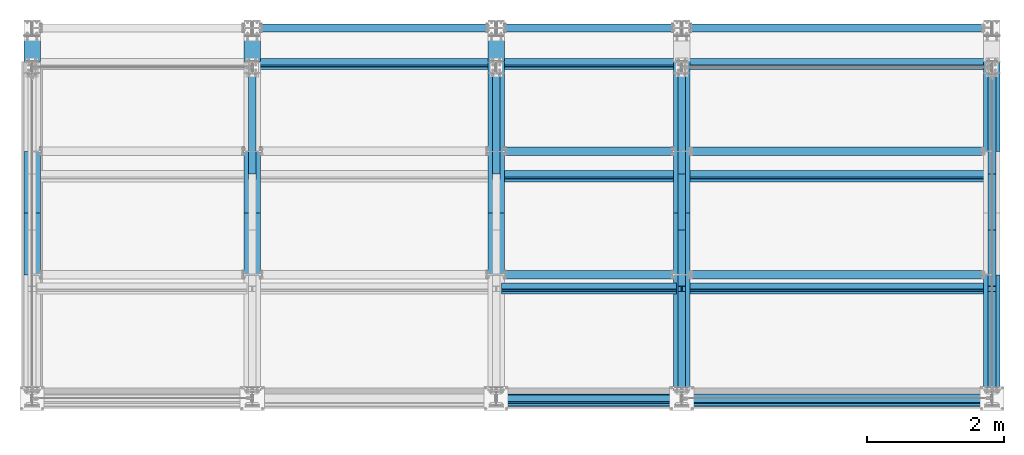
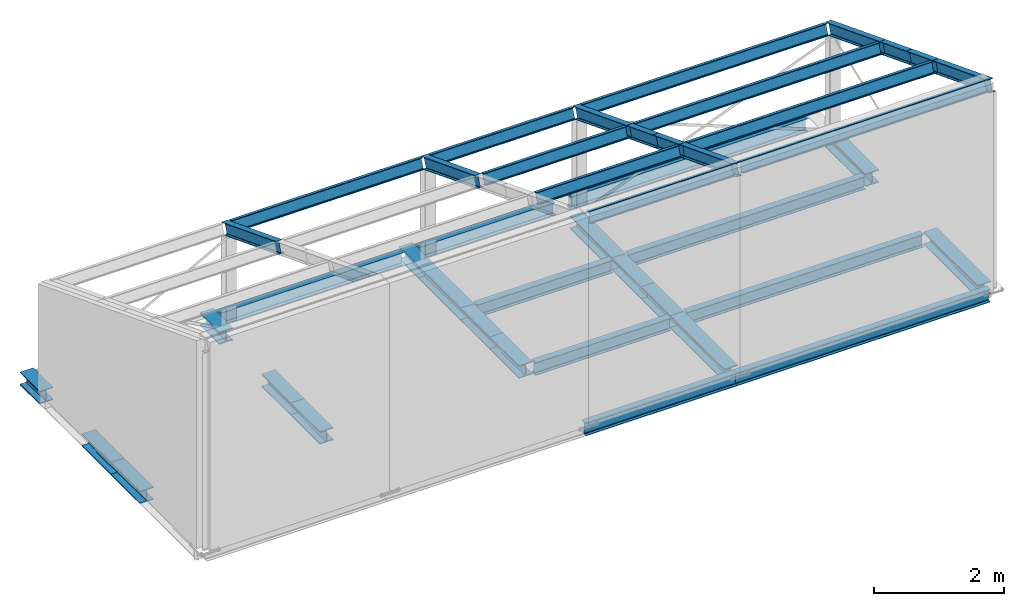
# One storey, part 2 of 66: 44 beams.
"""IFC4 building model written with IfcOpenShell, lengths in metres."""

from ifc_helpers import new_model, si_unit, frame, frame_2d, origin_with_axes, origin_2d_with_axis, place, context, project, spatial, i_section, extrude, clip, halfspace, material, material_profile, profile_set, profile_usage, type_object, element, save


model = new_model("IFC4")

# Units and contexts
model_context = context("Model", 3, precision=1e-05, world=origin_with_axes())
ifc_project = project(units=[si_unit("LENGTHUNIT", "METRE"), si_unit("AREAUNIT", "SQUARE_METRE"), si_unit("VOLUMEUNIT", "CUBIC_METRE"), si_unit("MASSUNIT", "GRAM", prefix="KILO"), si_unit("TIMEUNIT", "SECOND"), si_unit("PLANEANGLEUNIT", "RADIAN"), si_unit("SOLIDANGLEUNIT", "STERADIAN"), si_unit("THERMODYNAMICTEMPERATUREUNIT", "DEGREE_CELSIUS")], contexts=[model_context])

# Site, building, storey
placement_1 = place(None, origin_with_axes())
site = spatial("IfcSite", under=ifc_project, at=placement_1, Name="Italia", CompositionType="ELEMENT")
building = spatial("IfcBuilding", under=site, at=placement_1, Name="Uffici", CompositionType="ELEMENT")
storey_placement = place(None, frame((0.0, 0.0, 3.299999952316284), z_axis=(0.0, 0.0, 1.0), x_axis=(1.0, 0.0, 0.0)))
storey = spatial("IfcBuildingStorey", under=building, at=storey_placement, Name="Storey 1", CompositionType="ELEMENT", Elevation=3.299999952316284)

# Beams
ifc_material = material(Name="Acciaio", Category="Acciaio")
ifc_material_profile = material_profile(ifc_material, i_section(OverallWidth=0.24, OverallDepth=0.23, WebThickness=0.0075, FlangeThickness=0.012, FilletRadius=0.021, at=frame_2d((0.0, 0.0), x_axis=(0.0, -0.999999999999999))), Name="1 HEA240")
ifc_profile_set = profile_set([ifc_material_profile])
ifc_profile_usage_1 = profile_usage(ifc_profile_set, cardinal=2)
beam_type_1 = type_object("IfcBeamType", Name="2 HEB240", PredefinedType="BEAM", material=ifc_profile_usage_1)
placement_2 = place(placement_1, origin_with_axes())
beam_1_placement = place(placement_2, origin_with_axes())
element("IfcBeam", 1, at=beam_1_placement, inside=storey, type_object=beam_type_1, Name="108", context=model_context, shape_type="SweptSolid", body=[
    extrude(i_section(OverallWidth=0.24, OverallDepth=0.24, WebThickness=0.01, FlangeThickness=0.017, FilletRadius=0.021, at=origin_2d_with_axis()), frame((0.0, 1.79667, 3.18), z_axis=(0.0, 1.0, 0.0), x_axis=(-1.0, 0.0, 0.0)), (0.0, 0.0, 1.0), 0.898333),
])
ifc_profile_usage_2 = profile_usage(ifc_profile_set, cardinal=2)
beam_type_2 = type_object("IfcBeamType", Name="2 HEB240", PredefinedType="BEAM", material=ifc_profile_usage_2)
beam_2_placement = place(placement_2, origin_with_axes())
element("IfcBeam", 2, at=beam_2_placement, inside=storey, type_object=beam_type_2, Name="108", context=model_context, shape_type="SweptSolid", body=[
    extrude(i_section(OverallWidth=0.24, OverallDepth=0.24, WebThickness=0.01, FlangeThickness=0.017, FilletRadius=0.021, at=origin_2d_with_axis()), frame((0.0, 2.695, 3.18), z_axis=(0.0, 1.0, 0.0), x_axis=(-1.0, 0.0, 0.0)), (0.0, 0.0, 1.0), 0.898333),
])
ifc_profile_usage_3 = profile_usage(ifc_profile_set, cardinal=2)
beam_type_3 = type_object("IfcBeamType", Name="6 IPE200", PredefinedType="BEAM", material=ifc_profile_usage_3)
beam_3_placement = place(placement_2, frame((7.197502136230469, 4.863853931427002, 5.246760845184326), z_axis=(0.0, 0.0, 1.0), x_axis=(1.0, 0.0, 0.0)))
element("IfcBeam", 3, at=beam_3_placement, inside=storey, type_object=beam_type_3, Name="230", context=model_context, shape_type="Clipping", body=[
    clip(clip(extrude(i_section(OverallWidth=0.1, OverallDepth=0.2, WebThickness=0.0056, FlangeThickness=0.0085, FilletRadius=0.012, at=frame_2d((0.0, 0.0), x_axis=(0.932386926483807, -0.361461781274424))), frame((0.0, 0.0, 0.0), z_axis=(1.0, 0.0, 0.0), x_axis=(0.0, 1.0, 0.0)), (0.0, 0.0, 1.0), 9.03), halfspace(frame((2.3325, 0.0, 4.76837e-07), z_axis=(-1.0, 0.0, 0.0), x_axis=(0.0, -1.0, 0.0)), False)), halfspace(frame((6.6975, 0.0, 4.76837e-07), z_axis=(-1.0, 0.0, 0.0), x_axis=(0.0, -1.0, 0.0)), True)),
])
ifc_profile_usage_4 = profile_usage(ifc_profile_set, cardinal=2)
beam_type_4 = type_object("IfcBeamType", Name="6 IPE200", PredefinedType="BEAM", material=ifc_profile_usage_4)
beam_4_placement = place(placement_2, frame((5.404999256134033, 4.863853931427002, 5.246760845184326), z_axis=(0.0, 0.0, 1.0), x_axis=(1.0, 0.0, 0.0)))
element("IfcBeam", 4, at=beam_4_placement, inside=storey, type_object=beam_type_4, Name="230", context=model_context, shape_type="Clipping", body=[
    clip(clip(extrude(i_section(OverallWidth=0.1, OverallDepth=0.2, WebThickness=0.0056, FlangeThickness=0.0085, FilletRadius=0.012, at=frame_2d((0.0, 0.0), x_axis=(0.932386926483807, -0.361461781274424))), frame((0.0, 0.0, 0.0), z_axis=(1.0, 0.0, 0.0), x_axis=(0.0, 1.0, 0.0)), (0.0, 0.0, 1.0), 5.4), halfspace(frame((1.425, 0.0, 4.76837e-07), z_axis=(-1.0, 0.0, 0.0), x_axis=(0.0, -1.0, 0.0)), False)), halfspace(frame((3.975, 0.0, 4.76837e-07), z_axis=(-1.0, 0.0, 0.0), x_axis=(0.0, -1.0, 0.0)), True)),
])
ifc_profile_usage_5 = profile_usage(ifc_profile_set, cardinal=2)
beam_type_5 = type_object("IfcBeamType", Name="6 IPE200", PredefinedType="BEAM", material=ifc_profile_usage_5)
beam_5_placement = place(placement_2, frame((1.429999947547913, 4.863853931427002, 5.246760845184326), z_axis=(0.0, 0.0, 1.0), x_axis=(1.0, 0.0, 0.0)))
element("IfcBeam", 5, at=beam_5_placement, inside=storey, type_object=beam_type_5, Name="230", context=model_context, shape_type="Clipping", body=[
    clip(clip(extrude(i_section(OverallWidth=0.1, OverallDepth=0.2, WebThickness=0.0056, FlangeThickness=0.0085, FilletRadius=0.012, at=frame_2d((0.0, 0.0), x_axis=(0.932386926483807, -0.361461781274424))), frame((0.0, 0.0, 0.0), z_axis=(1.0, 0.0, 0.0), x_axis=(0.0, 1.0, 0.0)), (0.0, 0.0, 1.0), 7.1), halfspace(frame((1.85, 0.0, 4.76837e-07), z_axis=(-1.0, 0.0, 0.0), x_axis=(0.0, -1.0, 0.0)), False)), halfspace(frame((5.25, 0.0, 4.76837e-07), z_axis=(-1.0, 0.0, 0.0), x_axis=(0.0, -1.0, 0.0)), True)),
])
ifc_profile_usage_6 = profile_usage(ifc_profile_set, cardinal=2)
beam_type_6 = type_object("IfcBeamType", Name="6 IPE200", PredefinedType="BEAM", material=ifc_profile_usage_6)
beam_6_placement = place(placement_2, frame((7.197502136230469, 3.230520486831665, 5.880094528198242), z_axis=(0.0, 0.0, 1.0), x_axis=(1.0, 0.0, 0.0)))
element("IfcBeam", 6, at=beam_6_placement, inside=storey, type_object=beam_type_6, Name="204", context=model_context, shape_type="Clipping", body=[
    clip(clip(extrude(i_section(OverallWidth=0.1, OverallDepth=0.2, WebThickness=0.0056, FlangeThickness=0.0085, FilletRadius=0.012, at=frame_2d((0.0, 0.0), x_axis=(0.932386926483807, -0.361461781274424))), frame((0.0, 0.0, 0.0), z_axis=(1.0, 0.0, 0.0), x_axis=(0.0, 1.0, 0.0)), (0.0, 0.0, 1.0), 9.03), halfspace(frame((2.3325, 0.0, 0.0), z_axis=(-1.0, 0.0, 0.0), x_axis=(0.0, -1.0, 0.0)), False)), halfspace(frame((6.6975, 0.0, 0.0), z_axis=(-1.0, 0.0, 0.0), x_axis=(0.0, -1.0, 0.0)), True)),
])
ifc_profile_usage_7 = profile_usage(ifc_profile_set, cardinal=2)
beam_type_7 = type_object("IfcBeamType", Name="6 IPE200", PredefinedType="BEAM", material=ifc_profile_usage_7)
beam_7_placement = place(placement_2, frame((5.404999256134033, 3.230520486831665, 5.880094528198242), z_axis=(0.0, 0.0, 1.0), x_axis=(1.0, 0.0, 0.0)))
element("IfcBeam", 7, at=beam_7_placement, inside=storey, type_object=beam_type_7, Name="204", context=model_context, shape_type="Clipping", body=[
    clip(clip(extrude(i_section(OverallWidth=0.1, OverallDepth=0.2, WebThickness=0.0056, FlangeThickness=0.0085, FilletRadius=0.012, at=frame_2d((0.0, 0.0), x_axis=(0.932386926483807, -0.361461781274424))), frame((0.0, 0.0, 0.0), z_axis=(1.0, 0.0, 0.0), x_axis=(0.0, 1.0, 0.0)), (0.0, 0.0, 1.0), 5.4), halfspace(frame((1.425, 0.0, 0.0), z_axis=(-1.0, 0.0, 0.0), x_axis=(0.0, -1.0, 0.0)), False)), halfspace(frame((3.975, 0.0, 0.0), z_axis=(-1.0, 0.0, 0.0), x_axis=(0.0, -1.0, 0.0)), True)),
])
ifc_profile_usage_8 = profile_usage(ifc_profile_set, cardinal=2)
beam_type_8 = type_object("IfcBeamType", Name="6 IPE200", PredefinedType="BEAM", material=ifc_profile_usage_8)
beam_8_placement = place(placement_2, frame((7.197502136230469, 1.597187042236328, 6.513427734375), z_axis=(0.0, 0.0, 1.0), x_axis=(1.0, 0.0, 0.0)))
element("IfcBeam", 8, at=beam_8_placement, inside=storey, type_object=beam_type_8, Name="202", context=model_context, shape_type="Clipping", body=[
    clip(clip(extrude(i_section(OverallWidth=0.1, OverallDepth=0.2, WebThickness=0.0056, FlangeThickness=0.0085, FilletRadius=0.012, at=frame_2d((0.0, 0.0), x_axis=(0.932386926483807, -0.361461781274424))), frame((0.0, 0.0, 0.0), z_axis=(1.0, 0.0, 0.0), x_axis=(0.0, 1.0, 0.0)), (0.0, 0.0, 1.0), 9.03), halfspace(frame((2.3325, 0.0, 0.0), z_axis=(-1.0, 0.0, 0.0), x_axis=(0.0, -1.0, 0.0)), False)), halfspace(frame((6.6975, 0.0, 0.0), z_axis=(-1.0, 0.0, 0.0), x_axis=(0.0, -1.0, 0.0)), True)),
])
ifc_profile_usage_9 = profile_usage(ifc_profile_set, cardinal=2)
beam_type_9 = type_object("IfcBeamType", Name="6 IPE200", PredefinedType="BEAM", material=ifc_profile_usage_9)
beam_9_placement = place(placement_2, frame((5.404999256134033, 1.597187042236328, 6.513427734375), z_axis=(0.0, 0.0, 1.0), x_axis=(1.0, 0.0, 0.0)))
element("IfcBeam", 9, at=beam_9_placement, inside=storey, type_object=beam_type_9, Name="202", context=model_context, shape_type="Clipping", body=[
    clip(clip(extrude(i_section(OverallWidth=0.1, OverallDepth=0.2, WebThickness=0.0056, FlangeThickness=0.0085, FilletRadius=0.012, at=frame_2d((0.0, 0.0), x_axis=(0.932386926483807, -0.361461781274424))), frame((0.0, 0.0, 0.0), z_axis=(1.0, 0.0, 0.0), x_axis=(0.0, 1.0, 0.0)), (0.0, 0.0, 1.0), 5.4), halfspace(frame((1.425, 0.0, 0.0), z_axis=(-1.0, 0.0, 0.0), x_axis=(0.0, -1.0, 0.0)), False)), halfspace(frame((3.975, 0.0, 0.0), z_axis=(-1.0, 0.0, 0.0), x_axis=(0.0, -1.0, 0.0)), True)),
])
ifc_profile_usage_10 = profile_usage(ifc_profile_set, cardinal=2)
beam_type_10 = type_object("IfcBeamType", Name="6 IPE200", PredefinedType="BEAM", material=ifc_profile_usage_10)
beam_10_placement = place(placement_2, frame((7.197502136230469, -0.03614616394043, 7.1467604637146), z_axis=(0.0, 0.0, 1.0), x_axis=(1.0, 0.0, 0.0)))
element("IfcBeam", 10, at=beam_10_placement, inside=storey, type_object=beam_type_10, Name="201", context=model_context, shape_type="Clipping", body=[
    clip(clip(extrude(i_section(OverallWidth=0.1, OverallDepth=0.2, WebThickness=0.0056, FlangeThickness=0.0085, FilletRadius=0.012, at=frame_2d((0.0, 0.0), x_axis=(0.932386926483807, -0.361461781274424))), frame((0.0, 0.0, 0.0), z_axis=(1.0, 0.0, 0.0), x_axis=(0.0, 1.0, 0.0)), (0.0, 0.0, 1.0), 9.03), halfspace(frame((2.3325, 0.0, 4.76837e-07), z_axis=(-1.0, 0.0, 0.0), x_axis=(0.0, -1.0, 0.0)), False)), halfspace(frame((6.6975, 0.0, 4.76837e-07), z_axis=(-1.0, 0.0, 0.0), x_axis=(0.0, -1.0, 0.0)), True)),
])
ifc_profile_usage_11 = profile_usage(ifc_profile_set, cardinal=2)
beam_type_11 = type_object("IfcBeamType", Name="6 IPE200", PredefinedType="BEAM", material=ifc_profile_usage_11)
beam_11_placement = place(placement_2, frame((5.404999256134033, -0.03614616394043, 7.1467604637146), z_axis=(0.0, 0.0, 1.0), x_axis=(1.0, 0.0, 0.0)))
element("IfcBeam", 11, at=beam_11_placement, inside=storey, type_object=beam_type_11, Name="201", context=model_context, shape_type="Clipping", body=[
    clip(clip(extrude(i_section(OverallWidth=0.1, OverallDepth=0.2, WebThickness=0.0056, FlangeThickness=0.0085, FilletRadius=0.012, at=frame_2d((0.0, 0.0), x_axis=(0.932386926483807, -0.361461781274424))), frame((0.0, 0.0, 0.0), z_axis=(1.0, 0.0, 0.0), x_axis=(0.0, 1.0, 0.0)), (0.0, 0.0, 1.0), 5.4), halfspace(frame((1.425, 0.0, 4.76837e-07), z_axis=(-1.0, 0.0, 0.0), x_axis=(0.0, -1.0, 0.0)), False)), halfspace(frame((3.975, 0.0, 4.76837e-07), z_axis=(-1.0, 0.0, 0.0), x_axis=(0.0, -1.0, 0.0)), True)),
])
ifc_profile_usage_12 = profile_usage(ifc_profile_set, cardinal=2)
beam_type_12 = type_object("IfcBeamType", Name="5 IPE220", PredefinedType="BEAM", material=ifc_profile_usage_12)
beam_12_placement = place(placement_2, origin_with_axes())
element("IfcBeam", 12, at=beam_12_placement, inside=storey, type_object=beam_type_12, Name="212", context=model_context, shape_type="SweptSolid", body=[
    extrude(i_section(OverallWidth=0.11, OverallDepth=0.22, WebThickness=0.0059, FlangeThickness=0.0092, FilletRadius=0.012, at=origin_2d_with_axis()), frame((13.97, 3.2269, 5.87077), z_axis=(0.0, 0.932361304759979, -0.36152783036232), x_axis=(-1.0, 0.0, 0.0)), (0.0, 0.0, 1.0), 1.80184),
])
ifc_profile_usage_13 = profile_usage(ifc_profile_set, cardinal=2)
beam_type_13 = type_object("IfcBeamType", Name="5 IPE220", PredefinedType="BEAM", material=ifc_profile_usage_13)
beam_13_placement = place(placement_2, origin_with_axes())
element("IfcBeam", 13, at=beam_13_placement, inside=storey, type_object=beam_type_13, Name="212", context=model_context, shape_type="SweptSolid", body=[
    extrude(i_section(OverallWidth=0.11, OverallDepth=0.22, WebThickness=0.0059, FlangeThickness=0.0092, FilletRadius=0.012, at=origin_2d_with_axis()), frame((13.97, 1.59357, 6.50411), z_axis=(0.0, 0.932361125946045, -0.361528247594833), x_axis=(-1.0, 0.0, 0.0)), (0.0, 0.0, 1.0), 0.875912),
])
ifc_profile_usage_14 = profile_usage(ifc_profile_set, cardinal=2)
beam_type_14 = type_object("IfcBeamType", Name="5 IPE220", PredefinedType="BEAM", material=ifc_profile_usage_14)
beam_14_placement = place(placement_2, origin_with_axes())
element("IfcBeam", 14, at=beam_14_placement, inside=storey, type_object=beam_type_14, Name="211", context=model_context, shape_type="SweptSolid", body=[
    extrude(i_section(OverallWidth=0.11, OverallDepth=0.22, WebThickness=0.0059, FlangeThickness=0.0092, FilletRadius=0.012, at=origin_2d_with_axis()), frame((9.455, 3.2269, 5.87077), z_axis=(0.0, 0.932361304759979, -0.36152783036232), x_axis=(-1.0, 0.0, 0.0)), (0.0, 0.0, 1.0), 1.80184),
])
ifc_profile_usage_15 = profile_usage(ifc_profile_set, cardinal=2)
beam_type_15 = type_object("IfcBeamType", Name="2 HEB240", PredefinedType="BEAM", material=ifc_profile_usage_15)
beam_15_placement = place(placement_2, frame((9.455001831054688, -0.898333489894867, 3.180000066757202), z_axis=(0.0, 0.0, 1.0), x_axis=(1.0, 0.0, 0.0)))
element("IfcBeam", 15, at=beam_15_placement, inside=storey, type_object=beam_type_15, Name="111", context=model_context, shape_type="Clipping", body=[
    clip(extrude(i_section(OverallWidth=0.24, OverallDepth=0.24, WebThickness=0.01, FlangeThickness=0.017, FilletRadius=0.021, at=origin_2d_with_axis()), frame((0.0, 0.0, 0.0), z_axis=(0.0, 1.0, 0.0), x_axis=(-1.0, 0.0, 0.0)), (0.0, 0.0, 1.0), 2.695), halfspace(frame((9.53674e-07, 1.02833, 0.0), z_axis=(0.0, -1.0, 0.0), x_axis=(1.0, 0.0, 0.0)), False)),
])
ifc_profile_usage_16 = profile_usage(ifc_profile_set, cardinal=2)
beam_type_16 = type_object("IfcBeamType", Name="2 HEB240", PredefinedType="BEAM", material=ifc_profile_usage_16)
beam_16_placement = place(placement_2, origin_with_axes())
element("IfcBeam", 16, at=beam_16_placement, inside=storey, type_object=beam_type_16, Name="111", context=model_context, shape_type="SweptSolid", body=[
    extrude(i_section(OverallWidth=0.24, OverallDepth=0.24, WebThickness=0.01, FlangeThickness=0.017, FilletRadius=0.021, at=origin_2d_with_axis()), frame((9.455, 1.79667, 3.18), z_axis=(0.0, 1.0, 0.0), x_axis=(-1.0, 0.0, 0.0)), (0.0, 0.0, 1.0), 0.898333),
])
ifc_profile_usage_17 = profile_usage(ifc_profile_set, cardinal=2)
beam_type_17 = type_object("IfcBeamType", Name="2 HEB240", PredefinedType="BEAM", material=ifc_profile_usage_17)
beam_17_placement = place(placement_2, origin_with_axes())
element("IfcBeam", 17, at=beam_17_placement, inside=storey, type_object=beam_type_17, Name="111", context=model_context, shape_type="SweptSolid", body=[
    extrude(i_section(OverallWidth=0.24, OverallDepth=0.24, WebThickness=0.01, FlangeThickness=0.017, FilletRadius=0.021, at=origin_2d_with_axis()), frame((9.455, 3.59333, 3.18), z_axis=(0.0, 1.0, 0.0), x_axis=(-1.0, 0.0, 0.0)), (0.0, 0.0, 1.0), 1.30667),
])
ifc_profile_usage_18 = profile_usage(ifc_profile_set, cardinal=2)
beam_type_18 = type_object("IfcBeamType", Name="2 HEB240", PredefinedType="BEAM", material=ifc_profile_usage_18)
beam_18_placement = place(placement_2, origin_with_axes())
element("IfcBeam", 18, at=beam_18_placement, inside=storey, type_object=beam_type_18, Name="111", context=model_context, shape_type="SweptSolid", body=[
    extrude(i_section(OverallWidth=0.24, OverallDepth=0.24, WebThickness=0.01, FlangeThickness=0.017, FilletRadius=0.021, at=origin_2d_with_axis()), frame((9.455, 2.695, 3.18), z_axis=(0.0, 1.0, 0.0), x_axis=(-1.0, 0.0, 0.0)), (0.0, 0.0, 1.0), 0.898333),
])
ifc_profile_usage_19 = profile_usage(ifc_profile_set, cardinal=2)
beam_type_19 = type_object("IfcBeamType", Name="2 HEB240", PredefinedType="BEAM", material=ifc_profile_usage_19)
beam_19_placement = place(placement_2, origin_with_axes())
element("IfcBeam", 19, at=beam_19_placement, inside=storey, type_object=beam_type_19, Name="110", context=model_context, shape_type="SweptSolid", body=[
    extrude(i_section(OverallWidth=0.24, OverallDepth=0.24, WebThickness=0.01, FlangeThickness=0.017, FilletRadius=0.021, at=origin_2d_with_axis()), frame((6.755, 1.79667, 3.18), z_axis=(0.0, 1.0, 0.0), x_axis=(-1.0, 0.0, 0.0)), (0.0, 0.0, 1.0), 0.898333),
])
ifc_profile_usage_20 = profile_usage(ifc_profile_set, cardinal=2)
beam_type_20 = type_object("IfcBeamType", Name="2 HEB240", PredefinedType="BEAM", material=ifc_profile_usage_20)
beam_20_placement = place(placement_2, origin_with_axes())
element("IfcBeam", 20, at=beam_20_placement, inside=storey, type_object=beam_type_20, Name="110", context=model_context, shape_type="SweptSolid", body=[
    extrude(i_section(OverallWidth=0.24, OverallDepth=0.24, WebThickness=0.01, FlangeThickness=0.017, FilletRadius=0.021, at=origin_2d_with_axis()), frame((6.755, 3.59333, 3.18), z_axis=(0.0, 1.0, 0.0), x_axis=(-1.0, 0.0, 0.0)), (0.0, 0.0, 1.0), 1.30667),
])
ifc_profile_usage_21 = profile_usage(ifc_profile_set, cardinal=2)
beam_type_21 = type_object("IfcBeamType", Name="2 HEB240", PredefinedType="BEAM", material=ifc_profile_usage_21)
beam_21_placement = place(placement_2, origin_with_axes())
element("IfcBeam", 21, at=beam_21_placement, inside=storey, type_object=beam_type_21, Name="110", context=model_context, shape_type="SweptSolid", body=[
    extrude(i_section(OverallWidth=0.24, OverallDepth=0.24, WebThickness=0.01, FlangeThickness=0.017, FilletRadius=0.021, at=origin_2d_with_axis()), frame((6.755, 2.695, 3.18), z_axis=(0.0, 1.0, 0.0), x_axis=(-1.0, 0.0, 0.0)), (0.0, 0.0, 1.0), 0.898333),
])
ifc_profile_usage_22 = profile_usage(ifc_profile_set, cardinal=2)
beam_type_22 = type_object("IfcBeamType", Name="2 HEB240", PredefinedType="BEAM", material=ifc_profile_usage_22)
beam_22_placement = place(placement_2, origin_with_axes())
element("IfcBeam", 22, at=beam_22_placement, inside=storey, type_object=beam_type_22, Name="109", context=model_context, shape_type="SweptSolid", body=[
    extrude(i_section(OverallWidth=0.24, OverallDepth=0.24, WebThickness=0.01, FlangeThickness=0.017, FilletRadius=0.021, at=origin_2d_with_axis()), frame((3.205, 1.79667, 3.18), z_axis=(0.0, 1.0, 0.0), x_axis=(-1.0, 0.0, 0.0)), (0.0, 0.0, 1.0), 0.898333),
])
ifc_profile_usage_23 = profile_usage(ifc_profile_set, cardinal=2)
beam_type_23 = type_object("IfcBeamType", Name="2 HEB240", PredefinedType="BEAM", material=ifc_profile_usage_23)
beam_23_placement = place(placement_2, origin_with_axes())
element("IfcBeam", 23, at=beam_23_placement, inside=storey, type_object=beam_type_23, Name="109", context=model_context, shape_type="SweptSolid", body=[
    extrude(i_section(OverallWidth=0.24, OverallDepth=0.24, WebThickness=0.01, FlangeThickness=0.017, FilletRadius=0.021, at=origin_2d_with_axis()), frame((3.205, 2.695, 3.18), z_axis=(0.0, 1.0, 0.0), x_axis=(-1.0, 0.0, 0.0)), (0.0, 0.0, 1.0), 0.898333),
])
ifc_profile_usage_24 = profile_usage(ifc_profile_set, cardinal=2)
beam_type_24 = type_object("IfcBeamType", Name="5 IPE220", PredefinedType="BEAM", material=ifc_profile_usage_24)
beam_24_placement = place(placement_2, origin_with_axes())
element("IfcBeam", 24, at=beam_24_placement, inside=storey, type_object=beam_type_24, Name="211", context=model_context, shape_type="SweptSolid", body=[
    extrude(i_section(OverallWidth=0.11, OverallDepth=0.22, WebThickness=0.0059, FlangeThickness=0.0092, FilletRadius=0.012, at=origin_2d_with_axis()), frame((9.455, 1.59357, 6.50411), z_axis=(0.0, 0.932361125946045, -0.361528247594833), x_axis=(-1.0, 0.0, 0.0)), (0.0, 0.0, 1.0), 0.875912),
])
ifc_profile_usage_25 = profile_usage(ifc_profile_set, cardinal=2)
beam_type_25 = type_object("IfcBeamType", Name="5 IPE220", PredefinedType="BEAM", material=ifc_profile_usage_25)
beam_25_placement = place(placement_2, origin_with_axes())
element("IfcBeam", 25, at=beam_25_placement, inside=storey, type_object=beam_type_25, Name="210", context=model_context, shape_type="SweptSolid", body=[
    extrude(i_section(OverallWidth=0.11, OverallDepth=0.22, WebThickness=0.0059, FlangeThickness=0.0092, FilletRadius=0.012, at=origin_2d_with_axis()), frame((6.755, 3.2269, 5.87077), z_axis=(0.0, 0.932361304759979, -0.36152783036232), x_axis=(-1.0, 0.0, 0.0)), (0.0, 0.0, 1.0), 1.80184),
])
ifc_profile_usage_26 = profile_usage(ifc_profile_set, cardinal=2)
beam_type_26 = type_object("IfcBeamType", Name="5 IPE220", PredefinedType="BEAM", material=ifc_profile_usage_26)
beam_26_placement = place(placement_2, origin_with_axes())
element("IfcBeam", 26, at=beam_26_placement, inside=storey, type_object=beam_type_26, Name="209", context=model_context, shape_type="SweptSolid", body=[
    extrude(i_section(OverallWidth=0.11, OverallDepth=0.22, WebThickness=0.0059, FlangeThickness=0.0092, FilletRadius=0.012, at=origin_2d_with_axis()), frame((3.205, 3.2269, 5.87077), z_axis=(0.0, 0.932361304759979, -0.36152783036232), x_axis=(-1.0, 0.0, 0.0)), (0.0, 0.0, 1.0), 1.80184),
])
ifc_profile_usage_27 = profile_usage(ifc_profile_set, cardinal=2)
beam_type_27 = type_object("IfcBeamType", Name="2 HEB240", PredefinedType="BEAM", material=ifc_profile_usage_27)
beam_27_placement = place(placement_2, frame((13.970001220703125, -0.898333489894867, 3.180000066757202), z_axis=(0.0, 0.0, 1.0), x_axis=(1.0, 0.0, 0.0)))
element("IfcBeam", 27, at=beam_27_placement, inside=storey, type_object=beam_type_27, Name="112", context=model_context, shape_type="Clipping", body=[
    clip(extrude(i_section(OverallWidth=0.24, OverallDepth=0.24, WebThickness=0.01, FlangeThickness=0.017, FilletRadius=0.021, at=origin_2d_with_axis()), frame((0.0, 0.0, 0.0), z_axis=(0.0, 1.0, 0.0), x_axis=(-1.0, 0.0, 0.0)), (0.0, 0.0, 1.0), 2.695), halfspace(frame((-9.53674e-07, 1.02833, 0.0), z_axis=(0.0, -1.0, 0.0), x_axis=(1.0, 0.0, 0.0)), False)),
])
ifc_profile_usage_28 = profile_usage(ifc_profile_set, cardinal=2)
beam_type_28 = type_object("IfcBeamType", Name="3 IPE240", PredefinedType="BEAM", material=ifc_profile_usage_28)
beam_28_placement = place(placement_2, origin_with_axes())
element("IfcBeam", 28, at=beam_28_placement, inside=storey, type_object=beam_type_28, Name="101", context=model_context, shape_type="SweptSolid", body=[
    extrude(i_section(OverallWidth=0.12, OverallDepth=0.24, WebThickness=0.0062, FlangeThickness=0.0098, FilletRadius=0.015, at=origin_2d_with_axis()), frame((9.455, 0.0, 3.18), z_axis=(-1.0, 0.0, 0.0), x_axis=(0.0, -1.0, 0.0)), (0.0, 0.0, 1.0), 2.7),
])
ifc_profile_usage_29 = profile_usage(ifc_profile_set, cardinal=2)
beam_type_29 = type_object("IfcBeamType", Name="5 IPE220", PredefinedType="BEAM", material=ifc_profile_usage_29)
beam_29_placement = place(placement_2, origin_with_axes())
element("IfcBeam", 29, at=beam_29_placement, inside=storey, type_object=beam_type_29, Name="212", context=model_context, shape_type="SweptSolid", body=[
    extrude(i_section(OverallWidth=0.11, OverallDepth=0.22, WebThickness=0.0059, FlangeThickness=0.0092, FilletRadius=0.012, at=origin_2d_with_axis()), frame((13.97, -0.0863861, 7.15552), z_axis=(0.0, 0.932361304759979, -0.36152783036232), x_axis=(-1.0, 0.0, 0.0)), (0.0, 0.0, 1.0), 1.80182),
])
ifc_profile_usage_30 = profile_usage(ifc_profile_set, cardinal=2)
beam_type_30 = type_object("IfcBeamType", Name="3 IPE240", PredefinedType="BEAM", material=ifc_profile_usage_30)
beam_30_placement = place(placement_2, frame((10.805001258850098, 1.796666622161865, 3.179999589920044), z_axis=(0.0, 0.0, 1.0), x_axis=(1.0, 0.0, 0.0)))
element("IfcBeam", 30, at=beam_30_placement, inside=storey, type_object=beam_type_30, Name="103", context=model_context, shape_type="Clipping", body=[
    clip(clip(extrude(i_section(OverallWidth=0.12, OverallDepth=0.24, WebThickness=0.0062, FlangeThickness=0.0098, FilletRadius=0.015, at=origin_2d_with_axis()), frame((0.0, 0.0, 0.0), z_axis=(-1.0, 0.0, 0.0), x_axis=(0.0, -1.0, 0.0)), (0.0, 0.0, 1.0), 5.4), halfspace(frame((-1.49, 0.0, 0.0), z_axis=(1.0, 0.0, 0.0), x_axis=(0.0, 1.0, 0.0)), False)), halfspace(frame((-3.91, 0.0, 0.0), z_axis=(1.0, 0.0, 0.0), x_axis=(0.0, 1.0, 0.0)), True)),
])
ifc_profile_usage_31 = profile_usage(ifc_profile_set, cardinal=2)
beam_type_31 = type_object("IfcBeamType", Name="5 IPE220", PredefinedType="BEAM", material=ifc_profile_usage_31)
beam_31_placement = place(placement_2, origin_with_axes())
element("IfcBeam", 31, at=beam_31_placement, inside=storey, type_object=beam_type_31, Name="211", context=model_context, shape_type="SweptSolid", body=[
    extrude(i_section(OverallWidth=0.11, OverallDepth=0.22, WebThickness=0.0059, FlangeThickness=0.0092, FilletRadius=0.012, at=origin_2d_with_axis()), frame((9.455, -0.0863861, 7.15552), z_axis=(0.0, 0.932361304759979, -0.36152783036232), x_axis=(-1.0, 0.0, 0.0)), (0.0, 0.0, 1.0), 1.80182),
])
ifc_profile_usage_32 = profile_usage(ifc_profile_set, cardinal=2)
beam_type_32 = type_object("IfcBeamType", Name="3 IPE240", PredefinedType="BEAM", material=ifc_profile_usage_32)
beam_32_placement = place(placement_2, origin_with_axes())
element("IfcBeam", 32, at=beam_32_placement, inside=storey, type_object=beam_type_32, Name="101", context=model_context, shape_type="SweptSolid", body=[
    extrude(i_section(OverallWidth=0.12, OverallDepth=0.24, WebThickness=0.0062, FlangeThickness=0.0098, FilletRadius=0.015, at=origin_2d_with_axis()), frame((13.97, 0.0, 3.18), z_axis=(-1.0, 0.0, 0.0), x_axis=(0.0, -1.0, 0.0)), (0.0, 0.0, 1.0), 4.515),
])
ifc_profile_usage_33 = profile_usage(ifc_profile_set, cardinal=2)
beam_type_33 = type_object("IfcBeamType", Name="3 IPE240", PredefinedType="BEAM", material=ifc_profile_usage_33)
beam_33_placement = place(placement_2, frame((10.805001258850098, 3.593333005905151, 3.179999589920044), z_axis=(0.0, 0.0, 1.0), x_axis=(1.0, 0.0, 0.0)))
element("IfcBeam", 33, at=beam_33_placement, inside=storey, type_object=beam_type_33, Name="105", context=model_context, shape_type="Clipping", body=[
    clip(clip(extrude(i_section(OverallWidth=0.12, OverallDepth=0.24, WebThickness=0.0062, FlangeThickness=0.0098, FilletRadius=0.015, at=origin_2d_with_axis()), frame((0.0, 0.0, 0.0), z_axis=(-1.0, 0.0, 0.0), x_axis=(0.0, -1.0, 0.0)), (0.0, 0.0, 1.0), 5.4), halfspace(frame((-1.49, 0.0, 0.0), z_axis=(1.0, 0.0, 0.0), x_axis=(0.0, 1.0, 0.0)), False)), halfspace(frame((-3.91, 0.0, 0.0), z_axis=(1.0, 0.0, 0.0), x_axis=(0.0, 1.0, 0.0)), True)),
])
ifc_profile_usage_34 = profile_usage(ifc_profile_set, cardinal=2)
beam_type_34 = type_object("IfcBeamType", Name="2 HEB240", PredefinedType="BEAM", material=ifc_profile_usage_34)
beam_34_placement = place(placement_2, origin_with_axes())
element("IfcBeam", 34, at=beam_34_placement, inside=storey, type_object=beam_type_34, Name="109", context=model_context, shape_type="SweptSolid", body=[
    extrude(i_section(OverallWidth=0.24, OverallDepth=0.24, WebThickness=0.01, FlangeThickness=0.017, FilletRadius=0.021, at=origin_2d_with_axis()), frame((3.205, 4.9, 3.18), z_axis=(0.0, 1.0, 0.0), x_axis=(-1.0, 0.0, 0.0)), (0.0, 0.0, 1.0), 0.605),
])
ifc_profile_usage_35 = profile_usage(ifc_profile_set, cardinal=2)
beam_type_35 = type_object("IfcBeamType", Name="2 HEB240", PredefinedType="BEAM", material=ifc_profile_usage_35)
beam_35_placement = place(placement_2, origin_with_axes())
element("IfcBeam", 35, at=beam_35_placement, inside=storey, type_object=beam_type_35, Name="110", context=model_context, shape_type="SweptSolid", body=[
    extrude(i_section(OverallWidth=0.24, OverallDepth=0.24, WebThickness=0.01, FlangeThickness=0.017, FilletRadius=0.021, at=origin_2d_with_axis()), frame((6.755, 4.9, 3.18), z_axis=(0.0, 1.0, 0.0), x_axis=(-1.0, 0.0, 0.0)), (0.0, 0.0, 1.0), 0.605),
])
ifc_profile_usage_36 = profile_usage(ifc_profile_set, cardinal=2)
beam_type_36 = type_object("IfcBeamType", Name="3 IPE240", PredefinedType="BEAM", material=ifc_profile_usage_36)
beam_36_placement = place(placement_2, frame((10.805001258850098, 5.390000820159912, 3.179999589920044), z_axis=(0.0, 0.0, 1.0), x_axis=(1.0, 0.0, 0.0)))
element("IfcBeam", 36, at=beam_36_placement, inside=storey, type_object=beam_type_36, Name="107", context=model_context, shape_type="Clipping", body=[
    clip(clip(extrude(i_section(OverallWidth=0.12, OverallDepth=0.24, WebThickness=0.0062, FlangeThickness=0.0098, FilletRadius=0.015, at=origin_2d_with_axis()), frame((0.0, 0.0, 0.0), z_axis=(-1.0, 0.0, 0.0), x_axis=(0.0, -1.0, 0.0)), (0.0, 0.0, 1.0), 5.4), halfspace(frame((-1.49, 0.0, 0.0), z_axis=(1.0, 0.0, 0.0), x_axis=(0.0, 1.0, 0.0)), False)), halfspace(frame((-3.91, 0.0, 0.0), z_axis=(1.0, 0.0, 0.0), x_axis=(0.0, 1.0, 0.0)), True)),
])
ifc_profile_usage_37 = profile_usage(ifc_profile_set, cardinal=2)
beam_type_37 = type_object("IfcBeamType", Name="3 IPE240", PredefinedType="BEAM", material=ifc_profile_usage_37)
beam_37_placement = place(placement_2, frame((8.529999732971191, 5.390000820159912, 3.179999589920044), z_axis=(0.0, 0.0, 1.0), x_axis=(1.0, 0.0, 0.0)))
element("IfcBeam", 37, at=beam_37_placement, inside=storey, type_object=beam_type_37, Name="107", context=model_context, shape_type="Clipping", body=[
    clip(clip(extrude(i_section(OverallWidth=0.12, OverallDepth=0.24, WebThickness=0.0062, FlangeThickness=0.0098, FilletRadius=0.015, at=origin_2d_with_axis()), frame((0.0, 0.0, 0.0), z_axis=(-1.0, 0.0, 0.0), x_axis=(0.0, -1.0, 0.0)), (0.0, 0.0, 1.0), 7.1), halfspace(frame((-1.915, 0.0, 0.0), z_axis=(1.0, 0.0, 0.0), x_axis=(0.0, 1.0, 0.0)), False)), halfspace(frame((-5.185, 0.0, 0.0), z_axis=(1.0, 0.0, 0.0), x_axis=(0.0, 1.0, 0.0)), True)),
])
ifc_profile_usage_38 = profile_usage(ifc_profile_set, cardinal=2)
beam_type_38 = type_object("IfcBeamType", Name="2 HEB240", PredefinedType="BEAM", material=ifc_profile_usage_38)
beam_38_placement = place(placement_2, origin_with_axes())
element("IfcBeam", 38, at=beam_38_placement, inside=storey, type_object=beam_type_38, Name="108", context=model_context, shape_type="SweptSolid", body=[
    extrude(i_section(OverallWidth=0.24, OverallDepth=0.24, WebThickness=0.01, FlangeThickness=0.017, FilletRadius=0.021, at=origin_2d_with_axis()), frame((0.0, 4.9, 3.18), z_axis=(0.0, 1.0, 0.0), x_axis=(-1.0, 0.0, 0.0)), (0.0, 0.0, 1.0), 0.605),
])
ifc_profile_usage_39 = profile_usage(ifc_profile_set, cardinal=2)
beam_type_39 = type_object("IfcBeamType", Name="3 IPE240", PredefinedType="BEAM", material=ifc_profile_usage_39)
beam_39_placement = place(placement_2, frame((16.227502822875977, 1.796666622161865, 3.179999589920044), z_axis=(0.0, 0.0, 1.0), x_axis=(1.0, 0.0, 0.0)))
element("IfcBeam", 39, at=beam_39_placement, inside=storey, type_object=beam_type_39, Name="103", context=model_context, shape_type="Clipping", body=[
    clip(clip(extrude(i_section(OverallWidth=0.12, OverallDepth=0.24, WebThickness=0.0062, FlangeThickness=0.0098, FilletRadius=0.015, at=origin_2d_with_axis()), frame((0.0, 0.0, 0.0), z_axis=(-1.0, 0.0, 0.0), x_axis=(0.0, -1.0, 0.0)), (0.0, 0.0, 1.0), 9.03), halfspace(frame((-2.4075, 0.0, 0.0), z_axis=(1.0, 0.0, 0.0), x_axis=(0.0, 1.0, 0.0)), False)), halfspace(frame((-6.6225, 0.0, 0.0), z_axis=(1.0, 0.0, 0.0), x_axis=(0.0, 1.0, 0.0)), True)),
])
ifc_profile_usage_40 = profile_usage(ifc_profile_set, cardinal=2)
beam_type_40 = type_object("IfcBeamType", Name="5 IPE220", PredefinedType="BEAM", material=ifc_profile_usage_40)
beam_40_placement = place(placement_2, origin_with_axes())
element("IfcBeam", 40, at=beam_40_placement, inside=storey, type_object=beam_type_40, Name="211", context=model_context, shape_type="SweptSolid", body=[
    extrude(i_section(OverallWidth=0.11, OverallDepth=0.22, WebThickness=0.0059, FlangeThickness=0.0092, FilletRadius=0.012, at=origin_2d_with_axis()), frame((9.455, 2.41023, 6.18744), z_axis=(0.0, 0.932361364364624, -0.36152783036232), x_axis=(-1.0, 0.0, 0.0)), (0.0, 0.0, 1.0), 0.875912),
])
ifc_profile_usage_41 = profile_usage(ifc_profile_set, cardinal=2)
beam_type_41 = type_object("IfcBeamType", Name="5 IPE220", PredefinedType="BEAM", material=ifc_profile_usage_41)
beam_41_placement = place(placement_2, origin_with_axes())
element("IfcBeam", 41, at=beam_41_placement, inside=storey, type_object=beam_type_41, Name="212", context=model_context, shape_type="SweptSolid", body=[
    extrude(i_section(OverallWidth=0.11, OverallDepth=0.22, WebThickness=0.0059, FlangeThickness=0.0092, FilletRadius=0.012, at=origin_2d_with_axis()), frame((13.97, 2.41023, 6.18744), z_axis=(0.0, 0.932361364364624, -0.36152783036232), x_axis=(-1.0, 0.0, 0.0)), (0.0, 0.0, 1.0), 0.875912),
])
ifc_profile_usage_42 = profile_usage(ifc_profile_set, cardinal=2)
beam_type_42 = type_object("IfcBeamType", Name="3 IPE240", PredefinedType="BEAM", material=ifc_profile_usage_42)
beam_42_placement = place(placement_2, frame((16.227502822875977, 3.593333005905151, 3.179999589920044), z_axis=(0.0, 0.0, 1.0), x_axis=(1.0, 0.0, 0.0)))
element("IfcBeam", 42, at=beam_42_placement, inside=storey, type_object=beam_type_42, Name="105", context=model_context, shape_type="Clipping", body=[
    clip(clip(extrude(i_section(OverallWidth=0.12, OverallDepth=0.24, WebThickness=0.0062, FlangeThickness=0.0098, FilletRadius=0.015, at=origin_2d_with_axis()), frame((0.0, 0.0, 0.0), z_axis=(-1.0, 0.0, 0.0), x_axis=(0.0, -1.0, 0.0)), (0.0, 0.0, 1.0), 9.03), halfspace(frame((-2.4075, 0.0, 0.0), z_axis=(1.0, 0.0, 0.0), x_axis=(0.0, 1.0, 0.0)), False)), halfspace(frame((-6.6225, 0.0, 0.0), z_axis=(1.0, 0.0, 0.0), x_axis=(0.0, 1.0, 0.0)), True)),
])
ifc_profile_usage_43 = profile_usage(ifc_profile_set, cardinal=2)
beam_type_43 = type_object("IfcBeamType", Name="3 IPE240", PredefinedType="BEAM", material=ifc_profile_usage_43)
beam_43_placement = place(placement_2, frame((16.227502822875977, 5.390000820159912, 3.179999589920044), z_axis=(0.0, 0.0, 1.0), x_axis=(1.0, 0.0, 0.0)))
element("IfcBeam", 43, at=beam_43_placement, inside=storey, type_object=beam_type_43, Name="107", context=model_context, shape_type="Clipping", body=[
    clip(clip(extrude(i_section(OverallWidth=0.12, OverallDepth=0.24, WebThickness=0.0062, FlangeThickness=0.0098, FilletRadius=0.015, at=origin_2d_with_axis()), frame((0.0, 0.0, 0.0), z_axis=(-1.0, 0.0, 0.0), x_axis=(0.0, -1.0, 0.0)), (0.0, 0.0, 1.0), 9.03), halfspace(frame((-2.4075, 0.0, 0.0), z_axis=(1.0, 0.0, 0.0), x_axis=(0.0, 1.0, 0.0)), False)), halfspace(frame((-6.6325, 0.0, 0.0), z_axis=(1.0, 0.0, 0.0), x_axis=(0.0, 1.0, 0.0)), True)),
])
ifc_profile_usage_44 = profile_usage(ifc_profile_set, cardinal=2)
beam_type_44 = type_object("IfcBeamType", Name="2 HEB240", PredefinedType="BEAM", material=ifc_profile_usage_44)
beam_44_placement = place(placement_2, origin_with_axes())
element("IfcBeam", 44, at=beam_44_placement, inside=storey, type_object=beam_type_44, Name="112", context=model_context, shape_type="SweptSolid", body=[
    extrude(i_section(OverallWidth=0.24, OverallDepth=0.24, WebThickness=0.01, FlangeThickness=0.017, FilletRadius=0.021, at=origin_2d_with_axis()), frame((13.97, 3.59333, 3.18), z_axis=(0.0, 1.0, 0.0), x_axis=(-1.0, 0.0, 0.0)), (0.0, 0.0, 1.0), 1.30667),
])

save(model, "model.ifc")
